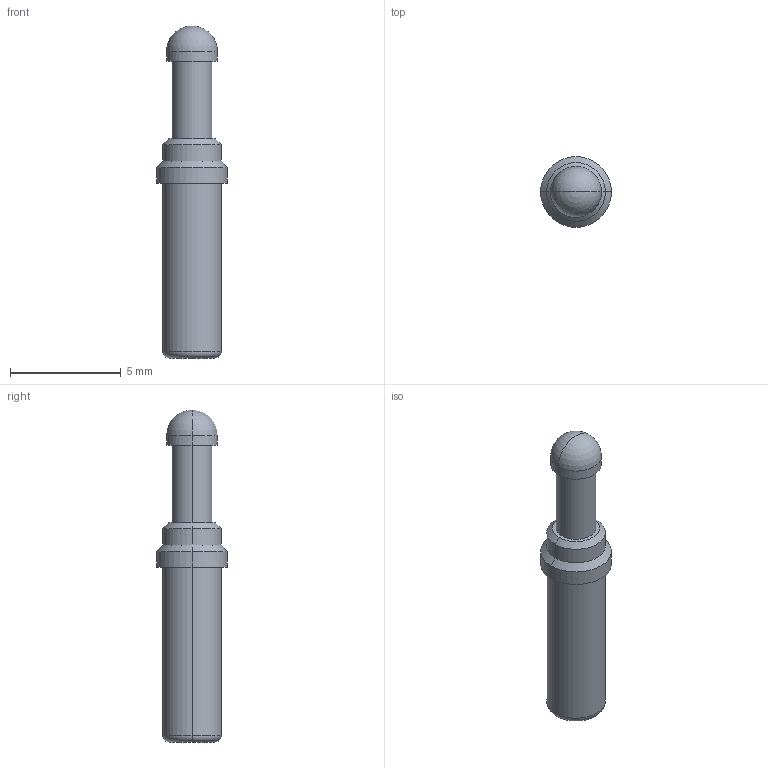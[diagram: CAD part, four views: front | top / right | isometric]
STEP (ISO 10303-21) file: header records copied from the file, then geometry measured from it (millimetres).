
FILE_DESCRIPTION (( 'STEP AP214' ), '1' );
FILE_NAME ('HD-PC8DS.STEP', '2026-03-26T10:32:50', ( '' ), ( '' ), 'SwSTEP 2.0', 'SolidWorks 2024', '' );
FILE_SCHEMA (( 'AUTOMOTIVE_DESIGN' ));
Length unit declared in the file: millimetre
Products named in the file (1): HD-PC8DS
Bounding box: 3.2 x 3.2 x 15 mm (x, y, z)
Volume: 70.3 mm3; surface area: 126.4 mm2
Topology: 1 solids, 1 shells, 22 faces, 44 edges, 25 vertices
Faces by surface type: cylinder 10, plane 4, cone 4, torus 2, sphere 2
Entity records: 575 total; most frequent: DIRECTION 114, CARTESIAN_POINT 88, ORIENTED_EDGE 82, AXIS2_PLACEMENT_3D 50, EDGE_CURVE 41, CIRCLE 27, EDGE_LOOP 25, VERTEX_POINT 24
